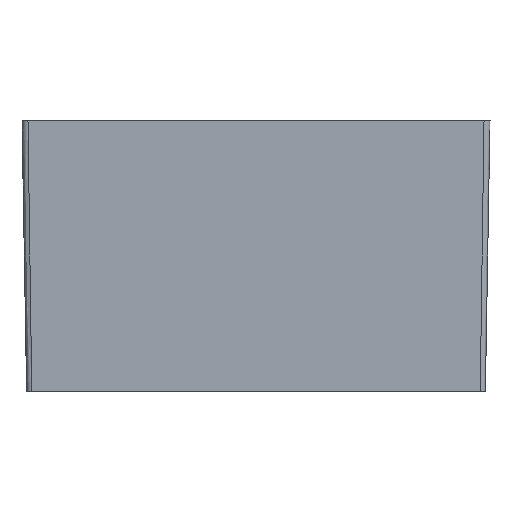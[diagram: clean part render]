
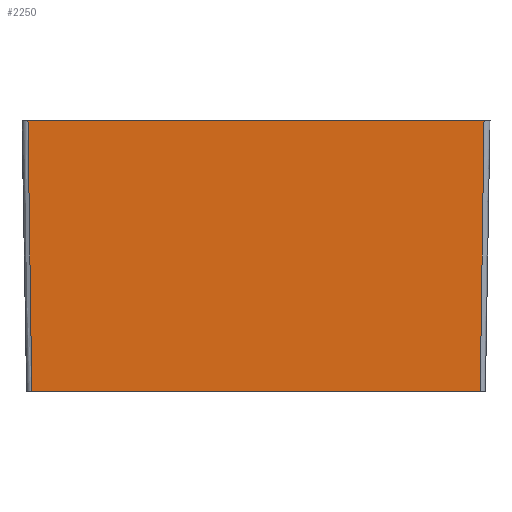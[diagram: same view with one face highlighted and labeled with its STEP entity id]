
A CAD part, left-side view. The second image highlights one B-rep face of the part: STEP entity #2250.
In plain terms, the highlighted planar face has unit normal (-1, 0, -0.017).
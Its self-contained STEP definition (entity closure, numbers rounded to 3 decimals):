
#122=PLANE('',#2431);
#209=FACE_OUTER_BOUND('',#325,.T.);
#325=EDGE_LOOP('',(#1813,#1814,#1815,#1816));
#516=LINE('',#3495,#744);
#517=LINE('',#3497,#745);
#518=LINE('',#3499,#746);
#519=LINE('',#3500,#747);
#744=VECTOR('',#2874,304.8);
#745=VECTOR('',#2875,304.8);
#746=VECTOR('',#2876,304.8);
#747=VECTOR('',#2877,304.8);
#1065=VERTEX_POINT('',#3493);
#1066=VERTEX_POINT('',#3494);
#1067=VERTEX_POINT('',#3496);
#1068=VERTEX_POINT('',#3498);
#1358=EDGE_CURVE('',#1065,#1066,#516,.T.);
#1359=EDGE_CURVE('',#1067,#1065,#517,.T.);
#1360=EDGE_CURVE('',#1068,#1067,#518,.T.);
#1361=EDGE_CURVE('',#1066,#1068,#519,.T.);
#1813=ORIENTED_EDGE('',*,*,#1358,.F.);
#1814=ORIENTED_EDGE('',*,*,#1359,.F.);
#1815=ORIENTED_EDGE('',*,*,#1360,.F.);
#1816=ORIENTED_EDGE('',*,*,#1361,.F.);
#2250=ADVANCED_FACE('',(#209),#122,.T.);
#2431=AXIS2_PLACEMENT_3D('',#3492,#2872,#2873);
#2872=DIRECTION('center_axis',(-1.,0.,
-0.017));
#2873=DIRECTION('ref_axis',(0.,-1.,0.));
#2874=DIRECTION('',(0.,-1.,0.));
#2875=DIRECTION('',(-0.017,0.014,1.));
#2876=DIRECTION('',(0.,1.,0.));
#2877=DIRECTION('',(0.017,0.014,-1.));
#3492=CARTESIAN_POINT('Origin',(-38.721,0.,0.));
#3493=CARTESIAN_POINT('',(-39.5,38.49,45.6));
#3494=CARTESIAN_POINT('',(-39.5,-38.49,45.6));
#3495=CARTESIAN_POINT('',(-39.5,38.49,45.6));
#3496=CARTESIAN_POINT('',(-38.721,37.849,0.));
#3497=CARTESIAN_POINT('',(-38.721,37.849,0.));
#3498=CARTESIAN_POINT('',(-38.721,-37.849,0.));
#3499=CARTESIAN_POINT('',(-38.721,-37.849,0.));
#3500=CARTESIAN_POINT('',(-39.5,-38.49,45.6));
